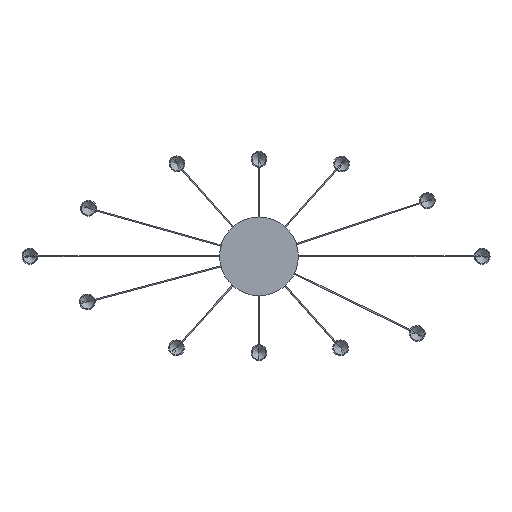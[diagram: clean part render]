
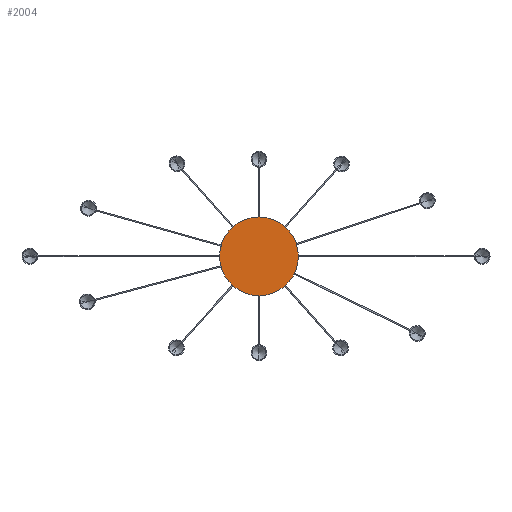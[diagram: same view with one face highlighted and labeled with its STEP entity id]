
A CAD part, front view. The second image highlights one B-rep face of the part: STEP entity #2004.
In plain terms, the highlighted planar face has unit normal (0, -1, 0).
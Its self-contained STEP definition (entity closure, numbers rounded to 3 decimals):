
#50 = DIRECTION ( 'NONE',  ( 0., 0., -1. ) ) ;
#1158 = DIRECTION ( 'NONE',  ( 0., 0., -1. ) ) ;
#1392 = CARTESIAN_POINT ( 'NONE',  ( 0., -21.5, 125. ) ) ;
#2004 = ADVANCED_FACE ( 'NONE', ( #3850 ), #3165, .T. ) ;
#2114 = CIRCLE ( 'NONE', #6347, 125. ) ;
#2373 = VERTEX_POINT ( 'NONE', #6576 ) ;
#3153 = ORIENTED_EDGE ( 'NONE', *, *, #5537, .T. ) ;
#3165 = PLANE ( 'NONE',  #8442 ) ;
#3213 = CARTESIAN_POINT ( 'NONE',  ( 125., -21.5, 0. ) ) ;
#3289 = CIRCLE ( 'NONE', #3723, 125. ) ;
#3581 = CARTESIAN_POINT ( 'NONE',  ( 0., -21.5, 0. ) ) ;
#3629 = DIRECTION ( 'NONE',  ( 0., -1., 0. ) ) ;
#3723 = AXIS2_PLACEMENT_3D ( 'NONE', #7799, #3629, #50 ) ;
#3850 = FACE_OUTER_BOUND ( 'NONE', #5781, .T. ) ;
#5513 = VERTEX_POINT ( 'NONE', #1392 ) ;
#5537 = EDGE_CURVE ( 'NONE', #2373, #5513, #2114, .T. ) ;
#5568 = EDGE_CURVE ( 'NONE', #5513, #2373, #3289, .T. ) ;
#5781 = EDGE_LOOP ( 'NONE', ( #3153, #6725 ) ) ;
#5990 = DIRECTION ( 'NONE',  ( 0., -1., 0. ) ) ;
#6347 = AXIS2_PLACEMENT_3D ( 'NONE', #3581, #6957, #6369 ) ;
#6369 = DIRECTION ( 'NONE',  ( 0., 0., -1. ) ) ;
#6576 = CARTESIAN_POINT ( 'NONE',  ( 0., -21.5, -125. ) ) ;
#6725 = ORIENTED_EDGE ( 'NONE', *, *, #5568, .T. ) ;
#6957 = DIRECTION ( 'NONE',  ( 0., -1., 0. ) ) ;
#7799 = CARTESIAN_POINT ( 'NONE',  ( 0., -21.5, 0. ) ) ;
#8442 = AXIS2_PLACEMENT_3D ( 'NONE', #3213, #5990, #1158 ) ;
